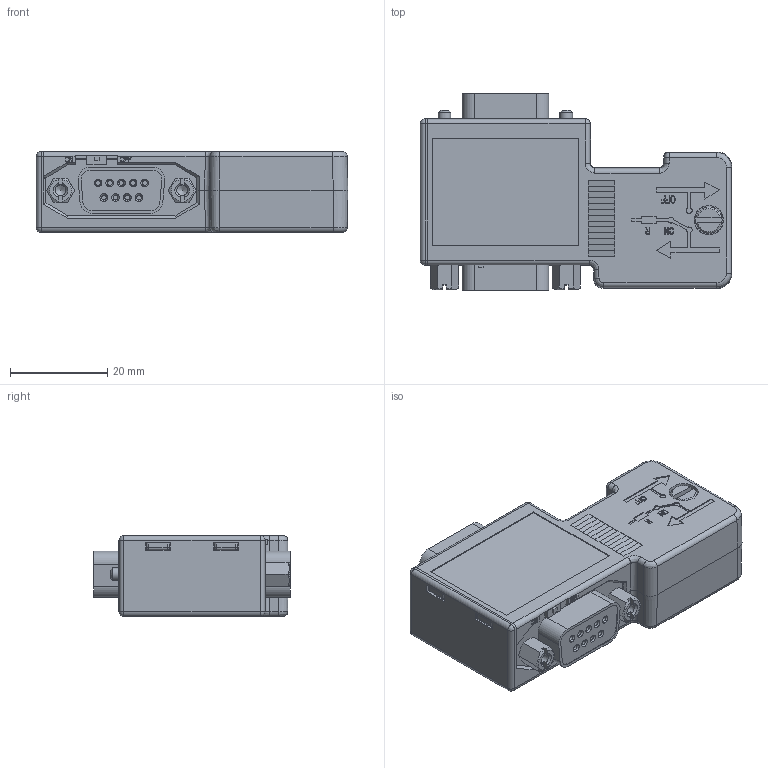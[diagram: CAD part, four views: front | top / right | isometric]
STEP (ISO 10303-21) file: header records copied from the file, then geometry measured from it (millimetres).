
FILE_DESCRIPTION(('FreeCAD Model'),'2;1');
FILE_NAME('C:/Users/ralfh/Desktop/murr_neu.step','2017-05-11T16:18:36',( 'Author'),(''),'Open CASCADE STEP processor 7.0','FreeCAD','Unknown' );
FILE_SCHEMA(('AUTOMOTIVE_DESIGN_CC2 { 1 2 10303 214 -1 1 5 4 }'));
Length unit declared in the file: millimetre
Products named in the file (10): ASSEMBLY; Steckteil_Buchse; Steckschraube; Steckmutter; Schraube_2-fach; Schalthebel_2-fach; Schale-2_90-Grad_2-fach_neutral; Zugentlastung_90-Grad; Schale-1_90-Grad_2-fach_neutral; Steckteil_Stift
Assembly tree (10 placements, depth 2):
  ASSEMBLY
    Steckteil_Buchse
    Steckschraube
    Steckmutter
    Schraube_2-fach  x2
    Schalthebel_2-fach
    Schale-2_90-Grad_2-fach_neutral
    Zugentlastung_90-Grad
    Schale-1_90-Grad_2-fach_neutral
    Steckteil_Stift
Bounding box: 64 x 40.4 x 16.6 mm (x, y, z)
Volume: 12401.4 mm3; surface area: 19144.6 mm2
Topology: 10 solids, 10 shells, 1611 faces, 4302 edges, 2735 vertices
Faces by surface type: plane 1211, cylinder 243, cone 75, sphere 56, bspline 15, torus 11
Full cylindrical faces by diameter (mm): 1 x18, 1.3 x4, 1.7 x1, 2.2 x2, 2.3 x1, 2.4 x4, 2.55 x1, 2.6 x2, 2.8 x4, 2.802 x4, 3 x3, 3.2 x1, 4 x1, 4.3 x3, 5.4 x1, 5.5 x1
Entity records: 127673 total; most frequent: CARTESIAN_POINT 33838, DIRECTION 15180, LINE 10523, VECTOR 10523, ORIENTED_EDGE 8280, PCURVE 8280, DEFINITIONAL_REPRESENTATION 8280, EDGE_CURVE 4140
